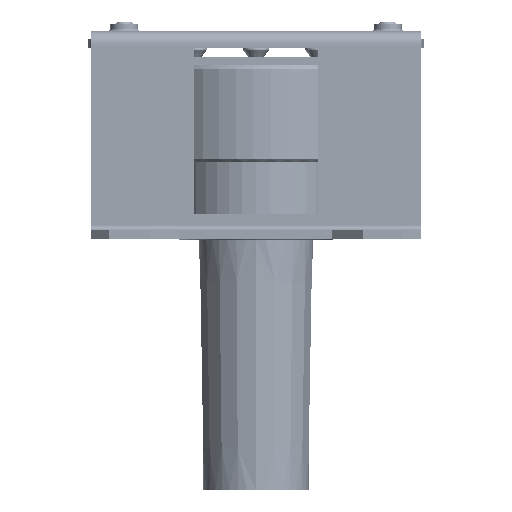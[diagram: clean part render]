
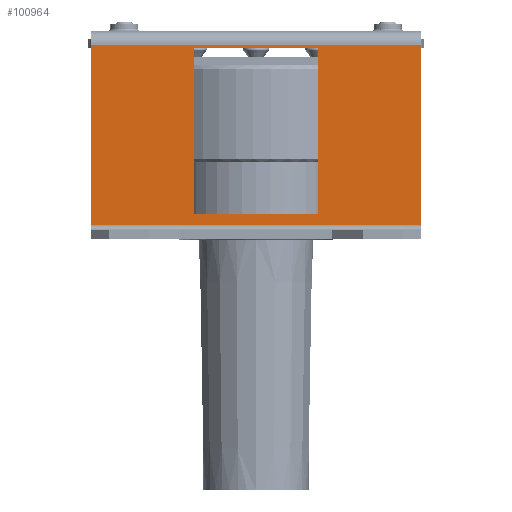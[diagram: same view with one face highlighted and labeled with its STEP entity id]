
A CAD part, front view. The second image highlights one B-rep face of the part: STEP entity #100964.
In plain terms, the highlighted planar face has unit normal (0, -1, 0) as drawn and (-1, 0, 0) by its records, which use the part's own axes.
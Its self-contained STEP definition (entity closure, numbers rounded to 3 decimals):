
#99416=DIRECTION('',(0.,0.,-1.));
#99417=VECTOR('',#99416,95.);
#99418=CARTESIAN_POINT('',(73.,56.,47.5));
#99419=LINE('',#99418,#99417);
#99455=DIRECTION('',(0.,1.,0.));
#99456=VECTOR('',#99455,52.);
#99457=CARTESIAN_POINT('',(73.,4.,47.5));
#99458=LINE('',#99457,#99456);
#99714=DIRECTION('',(0.,0.,1.));
#99715=VECTOR('',#99714,95.);
#99716=CARTESIAN_POINT('',(73.,4.,-47.5));
#99717=LINE('',#99716,#99715);
#99718=DIRECTION('',(0.,1.,0.));
#99719=VECTOR('',#99718,52.);
#99720=CARTESIAN_POINT('',(73.,4.,-47.5));
#99721=LINE('',#99720,#99719);
#99726=DIRECTION('',(0.,1.,0.));
#99727=VECTOR('',#99726,48.);
#99728=CARTESIAN_POINT('',(73.,7.,-18.));
#99729=LINE('',#99728,#99727);
#99734=DIRECTION('',(0.,0.,-1.));
#99735=VECTOR('',#99734,36.);
#99736=CARTESIAN_POINT('',(73.,7.,18.));
#99737=LINE('',#99736,#99735);
#99742=DIRECTION('',(0.,-1.,0.));
#99743=VECTOR('',#99742,48.);
#99744=CARTESIAN_POINT('',(73.,55.,18.));
#99745=LINE('',#99744,#99743);
#99750=DIRECTION('',(0.,0.,1.));
#99751=VECTOR('',#99750,36.);
#99752=CARTESIAN_POINT('',(73.,55.,-18.));
#99753=LINE('',#99752,#99751);
#100146=CARTESIAN_POINT('',(73.,56.,-47.5));
#100147=VERTEX_POINT('',#100146);
#100148=CARTESIAN_POINT('',(73.,4.,-47.5));
#100149=VERTEX_POINT('',#100148);
#100272=CARTESIAN_POINT('',(73.,4.,47.5));
#100273=VERTEX_POINT('',#100272);
#100274=CARTESIAN_POINT('',(73.,56.,47.5));
#100275=VERTEX_POINT('',#100274);
#100384=CARTESIAN_POINT('',(73.,7.,-18.));
#100385=CARTESIAN_POINT('',(73.,55.,-18.));
#100386=VERTEX_POINT('',#100384);
#100387=VERTEX_POINT('',#100385);
#100388=CARTESIAN_POINT('',(73.,7.,18.));
#100389=VERTEX_POINT('',#100388);
#100390=CARTESIAN_POINT('',(73.,55.,18.));
#100391=VERTEX_POINT('',#100390);
#100943=CARTESIAN_POINT('',(73.,60.,-47.5));
#100944=DIRECTION('',(-1.,0.,0.));
#100945=DIRECTION('',(0.,-1.,0.));
#100946=AXIS2_PLACEMENT_3D('',#100943,#100944,#100945);
#100947=PLANE('',#100946);
#100948=ORIENTED_EDGE('',*,*,#100937,.F.);
#100949=ORIENTED_EDGE('',*,*,#100637,.T.);
#100950=ORIENTED_EDGE('',*,*,#100666,.F.);
#100951=ORIENTED_EDGE('',*,*,#100692,.F.);
#100952=EDGE_LOOP('',(#100948,#100949,#100950,#100951));
#100953=FACE_OUTER_BOUND('',#100952,.F.);
#100955=ORIENTED_EDGE('',*,*,#100954,.F.);
#100957=ORIENTED_EDGE('',*,*,#100956,.F.);
#100959=ORIENTED_EDGE('',*,*,#100958,.F.);
#100961=ORIENTED_EDGE('',*,*,#100960,.F.);
#100962=EDGE_LOOP('',(#100955,#100957,#100959,#100961));
#100963=FACE_BOUND('',#100962,.F.);
#100637=EDGE_CURVE('',#100149,#100147,#99721,.T.);
#100666=EDGE_CURVE('',#100275,#100147,#99419,.T.);
#100692=EDGE_CURVE('',#100273,#100275,#99458,.T.);
#100937=EDGE_CURVE('',#100149,#100273,#99717,.T.);
#100954=EDGE_CURVE('',#100386,#100387,#99729,.T.);
#100956=EDGE_CURVE('',#100389,#100386,#99737,.T.);
#100958=EDGE_CURVE('',#100391,#100389,#99745,.T.);
#100960=EDGE_CURVE('',#100387,#100391,#99753,.T.);
#100964=ADVANCED_FACE('',(#100953,#100963),#100947,.T.);
